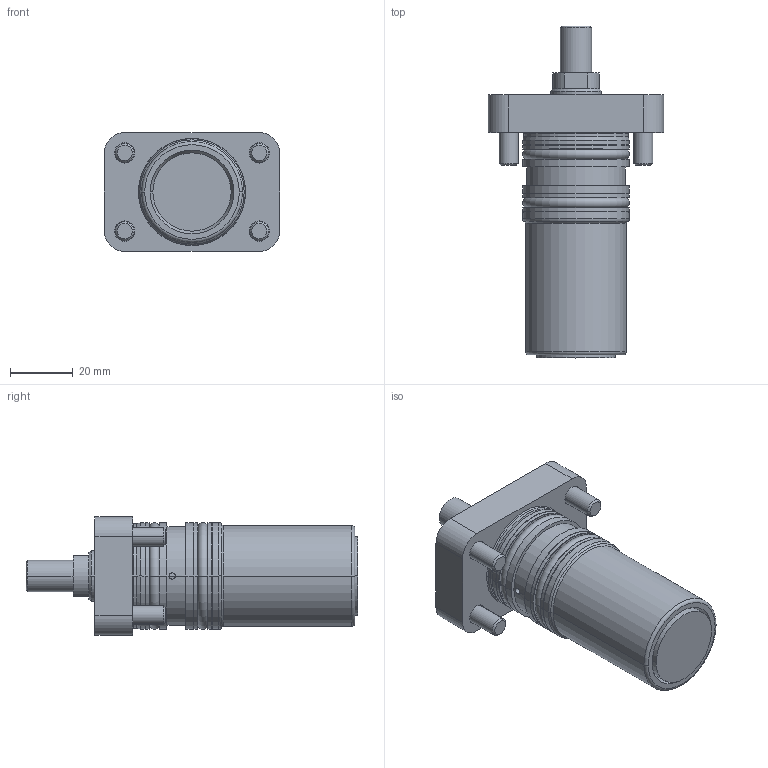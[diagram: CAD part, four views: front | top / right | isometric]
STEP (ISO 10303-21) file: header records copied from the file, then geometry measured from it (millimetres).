
FILE_DESCRIPTION (( 'STEP AP203' ), '1' );
FILE_NAME ('GERMA_Einbauzylinder_210-025-050-A.STEP', '2023-09-06T15:55:31', ( '' ), ( '' ), 'SwSTEP 2.0', 'SolidWorks 2016', '' );
FILE_SCHEMA (( 'CONFIG_CONTROL_DESIGN' ));
Length unit declared in the file: millimetre
Products named in the file (4): Kolben 60x-025_Kolben DU.25-Hub50-AG; DIN7984-M6x18; Gehaeuse 210-025_Gehaeuse 210-025-050; GERMA_Einbauzylinder_210-025-050-A
Assembly tree (6 placements, depth 2):
  GERMA_Einbauzylinder_210-025-050-A
    Gehaeuse 210-025_Gehaeuse 210-025-050
    Kolben 60x-025_Kolben DU.25-Hub50-AG
    DIN7984-M6x18  x4
Bounding box: 56 x 106 x 38 mm (x, y, z)
Volume: 73255.8 mm3; surface area: 29925.7 mm2
Topology: 6 solids, 6 shells, 370 faces, 883 edges, 553 vertices
Faces by surface type: plane 163, bspline 84, cylinder 73, cone 28, torus 22
Entity records: 12776 total; most frequent: CARTESIAN_POINT 5787, ORIENTED_EDGE 1414, DIRECTION 1198, EDGE_CURVE 707, VERTEX_POINT 454, AXIS2_PLACEMENT_3D 413, LINE 372, VECTOR 372
